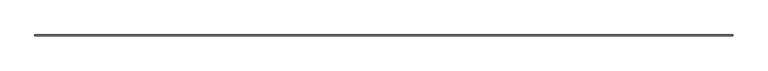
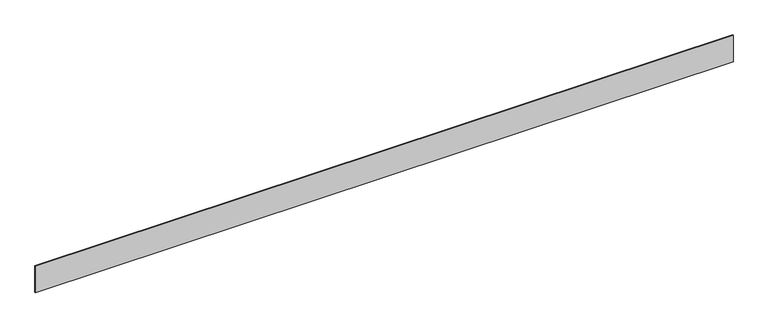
"""IFC4 building model written with IfcOpenShell, lengths in millimetres: duct fitting geometry, Накладка плинтусная - для кабель-канала DLP 35x80 - 2 м - угольно-серый : Накладка плинтусная - для кабель-канала DLP 35x80 - 2 м - угольно-серый."""

import ifcopenshell
import ifcopenshell.guid

model = None  # the IFC model being written
_history = None  # IfcOwnerHistory: only IFC2X3 demands one
_inside = {}  # id of a spatial element -> (the spatial element, [elements in it])
_under = {}  # id of a project, library or spatial element -> (it, [spatial elements below it])
_declared = {}  # id of a project -> (the project, [libraries it declares])
_typed = {}  # id of a type object -> (the type object, [elements of that type])
_made_of = {}  # id of a material, layer set ... -> (it, [elements and type objects made of it])


def new_model(schema):
    """Start an empty IFC model of exactly this schema.

    Asked for "IFC4X3", IfcOpenShell would pick the latest addendum, in which some entities
    have other attributes; the version numbers below select the first issue.
    IFC2X3 requires an IfcOwnerHistory on every rooted entity: one is made here for all.
    """
    global model, _history
    if schema == "IFC4X3":
        model = ifcopenshell.file(schema_version=(4, 3, 0, 0))
    else:
        model = ifcopenshell.file(schema=schema)
    _inside.clear()
    _under.clear()
    _declared.clear()
    _typed.clear()
    _made_of.clear()
    _history = None
    if model.schema == "IFC2X3":
        org = make("IfcOrganization", Name="unknown")
        user = make(
            "IfcPersonAndOrganization",
            ThePerson=make("IfcPerson", FamilyName="unknown"),
            TheOrganization=org,
        )
        app = make(
            "IfcApplication",
            ApplicationDeveloper=org,
            Version="unknown",
            ApplicationFullName="unknown",
            ApplicationIdentifier="unknown",
        )
        _history = make(
            "IfcOwnerHistory",
            OwningUser=user,
            OwningApplication=app,
            ChangeAction="ADDED",
            CreationDate=0,
        )
    return model


def make(cls, **values):
    """One entity of the class cls with the attributes given. An attribute that is None is left unset."""
    return model.create_entity(
        cls, **{name: value for name, value in values.items() if value is not None}
    )


def rooted(cls, **values):
    """An entity with a GlobalId (a new one), such as an element, a storey or a relation."""
    return make(cls, GlobalId=ifcopenshell.guid.new(), OwnerHistory=_history, **values)


def si_unit(unit_type, name, prefix=None):
    """IfcSIUnit, for example si_unit("LENGTHUNIT", "METRE", prefix="MILLI")."""
    return make("IfcSIUnit", UnitType=unit_type, Prefix=prefix, Name=name)


def assignment(units):
    """IfcUnitAssignment: the units of a project."""
    return None if units is None else make("IfcUnitAssignment", Units=units)


def point(xyz):
    """IfcCartesianPoint."""
    return None if xyz is None else make("IfcCartesianPoint", Coordinates=xyz)


def direction(xyz):
    """IfcDirection."""
    return None if xyz is None else make("IfcDirection", DirectionRatios=xyz)


def frame(location, z_axis=None, x_axis=None):
    """IfcAxis2Placement3D, a coordinate frame: its origin and axes. An axis left out is left unset."""
    return make(
        "IfcAxis2Placement3D",
        Location=point(location),
        Axis=direction(z_axis),
        RefDirection=direction(x_axis),
    )


def origin():
    """The frame at (0, 0, 0) with its axes left unset."""
    return frame((0.0, 0.0, 0.0))


def place(relative_to, where):
    """IfcLocalPlacement: puts the frame where relative to a parent placement (None: the world)."""
    return make(
        "IfcLocalPlacement", PlacementRelTo=relative_to, RelativePlacement=where
    )


def context(
    kind, dimensions, precision=None, world=None, true_north=None, identifier=None
):
    """IfcGeometricRepresentationContext, for example the 3D "Model" context."""
    return make(
        "IfcGeometricRepresentationContext",
        ContextIdentifier=identifier,
        ContextType=kind,
        CoordinateSpaceDimension=dimensions,
        Precision=precision,
        WorldCoordinateSystem=world,
        TrueNorth=true_north,
    )


def project(units=None, contexts=None):
    """IfcProject with its units and contexts."""
    return rooted(
        "IfcProject",
        Name="project",
        RepresentationContexts=contexts,
        UnitsInContext=assignment(units),
    )


def spatial(cls, under=None, at=None, **own):
    """A site, building, storey or space (cls), placed at a placement, below another one or the project."""
    s = rooted(cls, ObjectPlacement=at, **own)
    if under is not None:
        _under.setdefault(under.id(), (under, []))[1].append(s)
    return s


def polyline(points):
    """IfcPolyline through the points."""
    return make("IfcPolyline", Points=[point(p) for p in points])


def outline(outer, holes=None, kind="AREA"):
    """IfcArbitraryClosedProfileDef: a profile drawn as a closed curve; with holes, ...WithVoids."""
    if holes is None:
        return make("IfcArbitraryClosedProfileDef", ProfileType=kind, OuterCurve=outer)
    return make(
        "IfcArbitraryProfileDefWithVoids",
        ProfileType=kind,
        OuterCurve=outer,
        InnerCurves=holes,
    )


def extrude(swept, where, along, depth):
    """IfcExtrudedAreaSolid: the profile swept, set in the frame where, extruded along a direction by depth."""
    return make(
        "IfcExtrudedAreaSolid",
        SweptArea=swept,
        Position=where,
        ExtrudedDirection=direction(along),
        Depth=depth,
    )


def shape(context_of_items, identifier, shape_type, items):
    """IfcShapeRepresentation: the items that make up one representation, for example the "Body"."""
    return make(
        "IfcShapeRepresentation",
        ContextOfItems=context_of_items,
        RepresentationIdentifier=identifier,
        RepresentationType=shape_type,
        Items=items,
    )


def source(mapping_origin, context_of_items, identifier, shape_type, items):
    """IfcRepresentationMap: a shape defined once, which mapped items show again and again."""
    return make(
        "IfcRepresentationMap",
        MappingOrigin=mapping_origin,
        MappedRepresentation=shape(context_of_items, identifier, shape_type, items),
    )


def transform(
    local_origin,
    x_axis=None,
    y_axis=None,
    z_axis=None,
    scale=None,
    scale2=None,
    scale3=None,
    uniform=True,
):
    """IfcCartesianTransformationOperator3D, or its non-uniform kind. x_axis, y_axis, z_axis: its Axis1, 2, 3."""
    if uniform:
        return make(
            "IfcCartesianTransformationOperator3D",
            Axis1=direction(x_axis),
            Axis2=direction(y_axis),
            LocalOrigin=point(local_origin),
            Scale=scale,
            Axis3=direction(z_axis),
        )
    return make(
        "IfcCartesianTransformationOperator3DnonUniform",
        Axis1=direction(x_axis),
        Axis2=direction(y_axis),
        LocalOrigin=point(local_origin),
        Scale=scale,
        Axis3=direction(z_axis),
        Scale2=scale2,
        Scale3=scale3,
    )


def mapped(mapping_source, mapping_target):
    """IfcMappedItem: shows the shape of a source again, moved by a transform."""
    return make(
        "IfcMappedItem", MappingSource=mapping_source, MappingTarget=mapping_target
    )


def made_of(thing, what):
    """Note that an element or type object is made of a material, layer set ...; save() writes the relation."""
    if what is not None:
        _made_of.setdefault(what.id(), (what, []))[1].append(thing)
    return thing


def element(
    cls,
    number,
    at=None,
    inside=None,
    cuts=None,
    type_object=None,
    material=None,
    context=None,
    identifier="Body",
    shape_type=None,
    held_by="IfcProductDefinitionShape",
    body=None,
    shapes=None,
    **own,
):
    """One element of the class cls, such as IfcWall. Its Tag is "e" and its number.

    at: its placement. inside: the storey or other place that contains it. cuts: it is an
    opening in that element (IfcRelVoidsElement). A single representation is given by context,
    identifier, shape_type and body (its items); several are given by shapes. held_by: the class
    of the entity that holds the representations. save() writes the other relations.
    """
    e = rooted(cls, Tag="e%d" % number, ObjectPlacement=at, **own)
    if body is not None:
        shapes = [shape(context, identifier, shape_type, body)]
    if shapes is not None:
        e.Representation = make(held_by, Representations=shapes)
    if inside is not None:
        _inside.setdefault(inside.id(), (inside, []))[1].append(e)
    if cuts is not None:
        rooted(
            "IfcRelVoidsElement", RelatingBuildingElement=cuts, RelatedOpeningElement=e
        )
    if type_object is not None:
        _typed.setdefault(type_object.id(), (type_object, []))[1].append(e)
    return made_of(e, material)


def aggregate(whole, parts):
    """IfcRelAggregates: a whole, such as a stair, and the parts it consists of."""
    return rooted("IfcRelAggregates", RelatingObject=whole, RelatedObjects=parts)


def save(model, path):
    """Write the relations noted so far, then the file.

    IfcRelAggregates (storeys below a building ...), IfcRelContainedInSpatialStructure (elements
    in a storey), IfcRelDefinesByType, IfcRelAssociatesMaterial and IfcRelDeclares: one each for
    every whole, place, type object, material and project.
    """
    for whole, parts in _under.values():
        aggregate(whole, parts)
    for where, things in _inside.values():
        rooted(
            "IfcRelContainedInSpatialStructure",
            RelatedElements=things,
            RelatingStructure=where,
        )
    for kind, things in _typed.values():
        rooted("IfcRelDefinesByType", RelatedObjects=things, RelatingType=kind)
    for what, things in _made_of.values():
        rooted("IfcRelAssociatesMaterial", RelatedObjects=things, RelatingMaterial=what)
    for by, libraries in _declared.values():
        rooted("IfcRelDeclares", RelatingContext=by, RelatedDefinitions=libraries)
    model.write(path)


def duct_fitting_254dec16(model_context):
    return source(origin(), model_context, "Body", "SweptSolid", [
        extrude(outline(polyline([(-1000.0, -1.0), (-1000.0, 1.0), (1000.0, 1.0), (1000.0, -1.0), (-1000.0, -1.0)])), frame((0.0, 0.0, -40.0), z_axis=(0.0, 0.0, 1.0), x_axis=(1.0, 0.0, 0.0)), (0.0, 0.0, 1.0), 80.0),
    ])


if __name__ == "__main__":
    model = new_model("IFC4")
    model_context = context("Model", 3, world=origin())
    ifc_project = project(units=[si_unit("LENGTHUNIT", "METRE", prefix="MILLI")], contexts=[model_context])
    site = spatial("IfcSite", under=ifc_project)
    building = spatial("IfcBuilding", under=site)
    placement = place(None, origin())
    duct_fitting_shape = duct_fitting_254dec16(model_context)
    element("IfcDuctFitting", 1, ObjectType="Накладка плинтусная - для кабель-канала DLP 35x80 - 2 м - угольно-серый : Накладка плинтусная - для кабель-канала DLP 35x80 - 2 м - угольно-серый", at=placement, inside=building, context=model_context, shape_type="MappedRepresentation", body=[
        mapped(duct_fitting_shape, transform((0.0, 0.0, 0.0), x_axis=(1.0, 0.0, 0.0), y_axis=(0.0, 1.0, 0.0), z_axis=(0.0, 0.0, 1.0))),
    ])
    save(model, "model.ifc")
